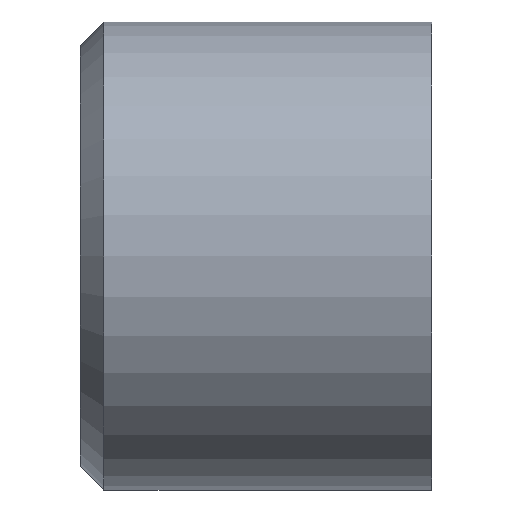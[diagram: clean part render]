
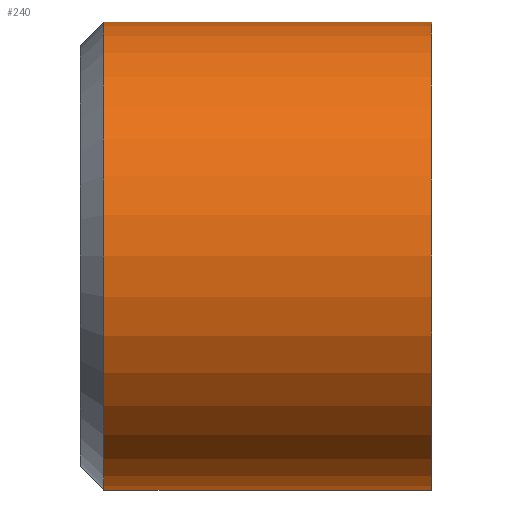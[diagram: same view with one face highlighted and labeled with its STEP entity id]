
A CAD part, left-side view. The second image highlights one B-rep face of the part: STEP entity #240.
In plain terms, the highlighted cylindrical face has radius 12.7 mm (diameter 25.4 mm), a partial arc.
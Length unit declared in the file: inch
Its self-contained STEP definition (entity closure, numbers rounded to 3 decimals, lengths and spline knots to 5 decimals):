
#22 = CARTESIAN_POINT ( 'NONE',  ( -0.386, 0.75, 0.5 ) ) ;
#80 = CARTESIAN_POINT ( 'NONE',  ( -0.386, 0., 0.5 ) ) ;
#107 = VECTOR ( 'NONE', #663, 39.37008 ) ;
#112 = EDGE_LOOP ( 'NONE', ( #171, #718, #249, #117 ) ) ;
#117 = ORIENTED_EDGE ( 'NONE', *, *, #573, .T. ) ;
#171 = ORIENTED_EDGE ( 'NONE', *, *, #697, .F. ) ;
#207 = VECTOR ( 'NONE', #274, 39.37008 ) ;
#220 = CYLINDRICAL_SURFACE ( 'NONE', #411, 0.5 ) ;
#240 = ADVANCED_FACE ( 'NONE', ( #439 ), #220, .T. ) ;
#249 = ORIENTED_EDGE ( 'NONE', *, *, #615, .T. ) ;
#274 = DIRECTION ( 'NONE',  ( 0., -1., 0. ) ) ;
#287 = AXIS2_PLACEMENT_3D ( 'NONE', #583, #507, #691 ) ;
#370 = VERTEX_POINT ( 'NONE', #647 ) ;
#396 = AXIS2_PLACEMENT_3D ( 'NONE', #562, #636, #453 ) ;
#400 = DIRECTION ( 'NONE',  ( 0., 0., -1. ) ) ;
#401 = LINE ( 'NONE', #22, #207 ) ;
#411 = AXIS2_PLACEMENT_3D ( 'NONE', #683, #758, #400 ) ;
#419 = CARTESIAN_POINT ( 'NONE',  ( -0.386, 0.75, -0.5 ) ) ;
#439 = FACE_OUTER_BOUND ( 'NONE', #112, .T. ) ;
#442 = CARTESIAN_POINT ( 'NONE',  ( -0.386, 0., -0.5 ) ) ;
#453 = DIRECTION ( 'NONE',  ( 0., 0., 1. ) ) ;
#477 = CARTESIAN_POINT ( 'NONE',  ( -0.386, 0.7, 0.5 ) ) ;
#507 = DIRECTION ( 'NONE',  ( 0., 1., 0. ) ) ;
#536 = VERTEX_POINT ( 'NONE', #442 ) ;
#561 = VERTEX_POINT ( 'NONE', #80 ) ;
#562 = CARTESIAN_POINT ( 'NONE',  ( -0.386, 0.7, 0. ) ) ;
#573 = EDGE_CURVE ( 'NONE', #536, #561, #733, .T. ) ;
#583 = CARTESIAN_POINT ( 'NONE',  ( -0.386, 0., 0. ) ) ;
#591 = VERTEX_POINT ( 'NONE', #477 ) ;
#615 = EDGE_CURVE ( 'NONE', #370, #536, #720, .T. ) ;
#636 = DIRECTION ( 'NONE',  ( 0., -1., 0. ) ) ;
#647 = CARTESIAN_POINT ( 'NONE',  ( -0.386, 0.7, -0.5 ) ) ;
#649 = EDGE_CURVE ( 'NONE', #591, #370, #761, .T. ) ;
#663 = DIRECTION ( 'NONE',  ( 0., -1., 0. ) ) ;
#683 = CARTESIAN_POINT ( 'NONE',  ( -0.386, 0.75, 0. ) ) ;
#691 = DIRECTION ( 'NONE',  ( 0., 0., 1. ) ) ;
#697 = EDGE_CURVE ( 'NONE', #591, #561, #401, .T. ) ;
#718 = ORIENTED_EDGE ( 'NONE', *, *, #649, .T. ) ;
#720 = LINE ( 'NONE', #419, #107 ) ;
#733 = CIRCLE ( 'NONE', #287, 0.5 ) ;
#758 = DIRECTION ( 'NONE',  ( 0., -1., 0. ) ) ;
#761 = CIRCLE ( 'NONE', #396, 0.5 ) ;
